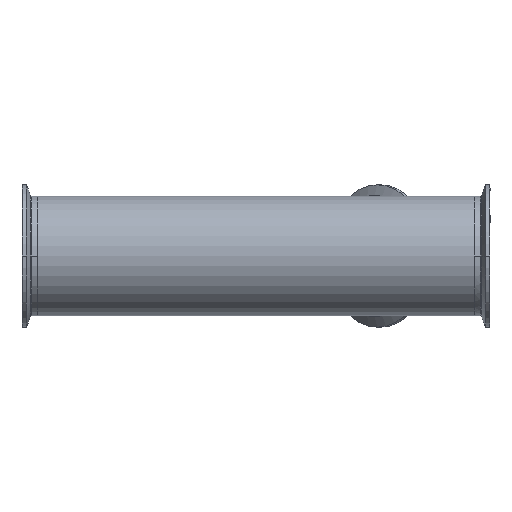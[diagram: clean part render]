
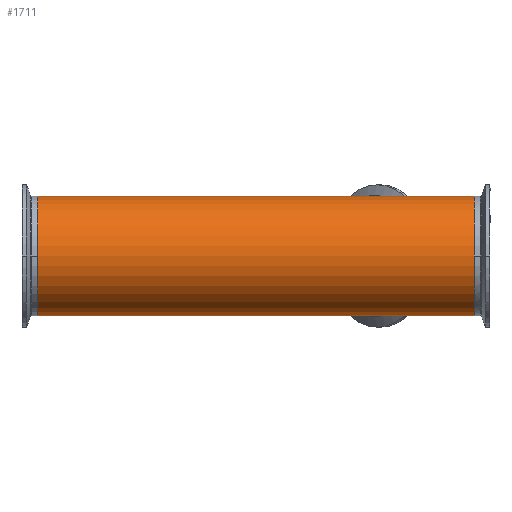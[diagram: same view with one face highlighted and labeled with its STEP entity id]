
A CAD part, front view. The second image highlights one B-rep face of the part: STEP entity #1711.
In plain terms, the highlighted cylindrical face has radius 38.1 mm (diameter 76.2 mm), a partial arc.
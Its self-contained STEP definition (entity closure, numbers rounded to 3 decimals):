
#22 = CARTESIAN_POINT ( 'NONE',  ( 228.2, 0., 0. ) ) ;
#79 = VECTOR ( 'NONE', #3849, 1000. ) ;
#161 = ORIENTED_EDGE ( 'NONE', *, *, #3306, .F. ) ;
#219 = DIRECTION ( 'NONE',  ( 1., 0., 0. ) ) ;
#439 = LINE ( 'NONE', #539, #1393 ) ;
#521 = DIRECTION ( 'NONE',  ( 1., 0., 0. ) ) ;
#539 = CARTESIAN_POINT ( 'NONE',  ( -50.3, 0., 38.1 ) ) ;
#559 = VERTEX_POINT ( 'NONE', #3896 ) ;
#691 = EDGE_CURVE ( 'NONE', #1835, #4264, #2276, .T. ) ;
#739 = CIRCLE ( 'NONE', #1863, 38.1 ) ;
#830 = LINE ( 'NONE', #2552, #3581 ) ;
#864 = DIRECTION ( 'NONE',  ( 0., 0., -1. ) ) ;
#951 = ORIENTED_EDGE ( 'NONE', *, *, #3988, .T. ) ;
#1122 = CARTESIAN_POINT ( 'NONE',  ( 228.2, 0., 38.1 ) ) ;
#1209 = VERTEX_POINT ( 'NONE', #3718 ) ;
#1371 = CARTESIAN_POINT ( 'NONE',  ( -50.3, 0., -38.1 ) ) ;
#1393 = VECTOR ( 'NONE', #2319, 1000. ) ;
#1408 = DIRECTION ( 'NONE',  ( 0., 0., -1. ) ) ;
#1700 = ORIENTED_EDGE ( 'NONE', *, *, #2223, .T. ) ;
#1711 = ADVANCED_FACE ( 'NONE', ( #2197 ), #2080, .T. ) ;
#1819 = AXIS2_PLACEMENT_3D ( 'NONE', #3008, #521, #864 ) ;
#1835 = VERTEX_POINT ( 'NONE', #2901 ) ;
#1863 = AXIS2_PLACEMENT_3D ( 'NONE', #4168, #2021, #4526 ) ;
#1876 = EDGE_CURVE ( 'NONE', #559, #3498, #439, .T. ) ;
#1932 = CARTESIAN_POINT ( 'NONE',  ( -50.3, 0., 38.1 ) ) ;
#2021 = DIRECTION ( 'NONE',  ( 1., 0., 0. ) ) ;
#2029 = CARTESIAN_POINT ( 'NONE',  ( 0., 0., 38.1 ) ) ;
#2080 = CYLINDRICAL_SURFACE ( 'NONE', #1819, 38.1 ) ;
#2197 = FACE_OUTER_BOUND ( 'NONE', #3496, .T. ) ;
#2220 = EDGE_CURVE ( 'NONE', #4347, #1835, #830, .T. ) ;
#2223 = EDGE_CURVE ( 'NONE', #559, #1209, #739, .T. ) ;
#2276 = CIRCLE ( 'NONE', #3369, 38.1 ) ;
#2299 = CARTESIAN_POINT ( 'NONE',  ( 0., 0., -38.1 ) ) ;
#2319 = DIRECTION ( 'NONE',  ( 1., 0., 0. ) ) ;
#2411 = ORIENTED_EDGE ( 'NONE', *, *, #1876, .F. ) ;
#2533 = DIRECTION ( 'NONE',  ( -1., 0., 0. ) ) ;
#2540 = VECTOR ( 'NONE', #4458, 1000. ) ;
#2552 = CARTESIAN_POINT ( 'NONE',  ( -50.3, 0., -38.1 ) ) ;
#2901 = CARTESIAN_POINT ( 'NONE',  ( 228.2, 0., -38.1 ) ) ;
#2939 = ORIENTED_EDGE ( 'NONE', *, *, #691, .T. ) ;
#3008 = CARTESIAN_POINT ( 'NONE',  ( -50.3, 0., 0. ) ) ;
#3306 = EDGE_CURVE ( 'NONE', #3498, #4264, #4559, .T. ) ;
#3369 = AXIS2_PLACEMENT_3D ( 'NONE', #22, #2533, #1408 ) ;
#3496 = EDGE_LOOP ( 'NONE', ( #2411, #1700, #951, #3513, #2939, #161 ) ) ;
#3498 = VERTEX_POINT ( 'NONE', #2029 ) ;
#3513 = ORIENTED_EDGE ( 'NONE', *, *, #2220, .T. ) ;
#3551 = LINE ( 'NONE', #1371, #79 ) ;
#3581 = VECTOR ( 'NONE', #219, 1000. ) ;
#3718 = CARTESIAN_POINT ( 'NONE',  ( -50.3, 0., -38.1 ) ) ;
#3849 = DIRECTION ( 'NONE',  ( 1., 0., 0. ) ) ;
#3896 = CARTESIAN_POINT ( 'NONE',  ( -50.3, 0., 38.1 ) ) ;
#3988 = EDGE_CURVE ( 'NONE', #1209, #4347, #3551, .T. ) ;
#4168 = CARTESIAN_POINT ( 'NONE',  ( -50.3, 0., 0. ) ) ;
#4264 = VERTEX_POINT ( 'NONE', #1122 ) ;
#4347 = VERTEX_POINT ( 'NONE', #2299 ) ;
#4458 = DIRECTION ( 'NONE',  ( 1., 0., 0. ) ) ;
#4526 = DIRECTION ( 'NONE',  ( 0., 0., -1. ) ) ;
#4559 = LINE ( 'NONE', #1932, #2540 ) ;
